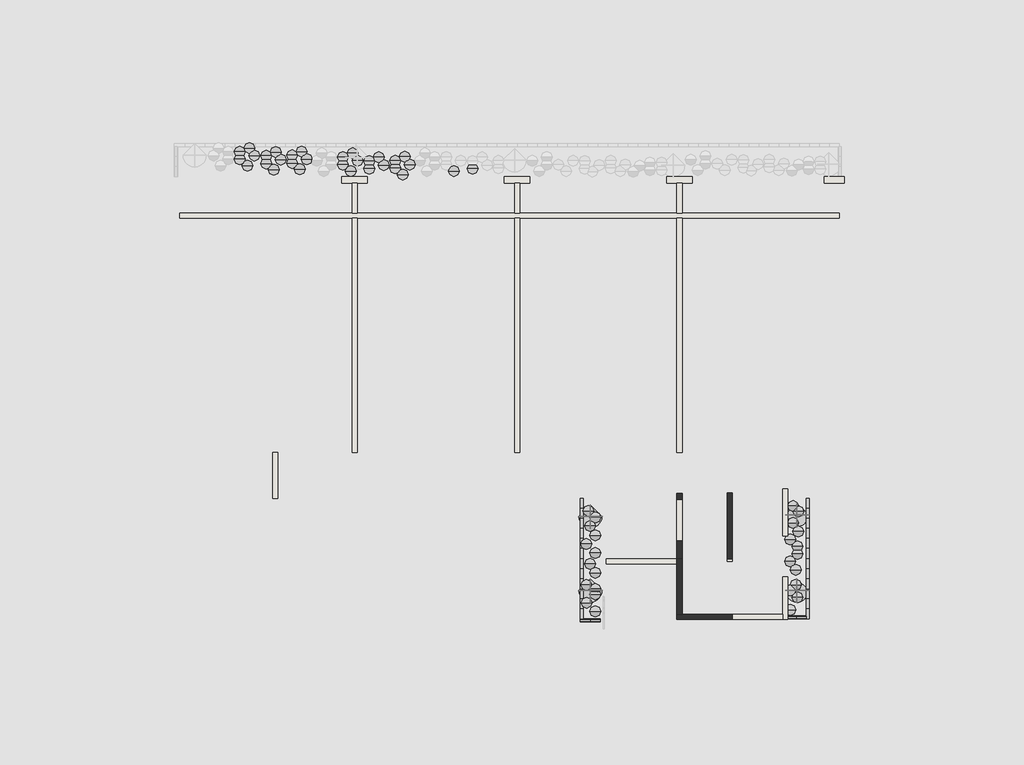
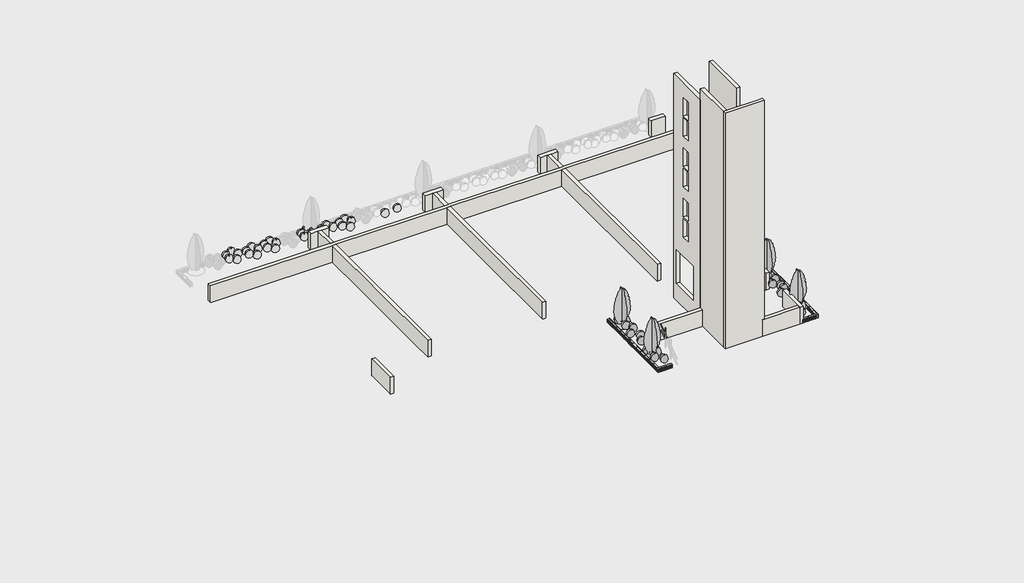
# One storey, part 1 of 2: 57 proxies, 32 geographic elements, 16 walls.
"""IFC4 building model written with IfcOpenShell, lengths in millimetres."""

from ifc_helpers import new_model, si_unit, frame, origin, origin_with_axes, place, context, project, spatial, polyline, outline, extrude, faceted_brep, transform, mapped, element, save
from components import generic_models_fe5f96ef, generic_models_e88440d3, geographic_element_770d22dd, geographic_element_d8609427

model = new_model("IFC4")

# Units and contexts
model_context = context("Model", 3, world=origin())
ifc_project = project(units=[si_unit("LENGTHUNIT", "METRE", prefix="MILLI")], contexts=[model_context])

# Site, building, storey
site = spatial("IfcSite", under=ifc_project)
building = spatial("IfcBuilding", under=site)
storey = spatial("IfcBuildingStorey", under=building, Name="設計GL", Elevation=0.0)

# Proxies
placement = place(None, origin())
generic_models_shape = generic_models_fe5f96ef(model_context)
element("IfcBuildingElementProxy", 1, Name="サツキ50 : サツキ", ObjectType="サツキ50 : サツキ", at=placement, inside=storey, context=model_context, shape_type="MappedRepresentation", body=[
    mapped(generic_models_shape, transform((62124.4249343, -9585.7974693, 0.0), x_axis=(1.0, 0.0, 0.0), y_axis=(0.0, 1.0, 0.0), z_axis=(0.0, 0.0, 1.0))),
])
element("IfcBuildingElementProxy", 2, Name="サツキ53 : サツキ", ObjectType="サツキ53 : サツキ", at=placement, inside=storey, context=model_context, shape_type="MappedRepresentation", body=[
    mapped(generic_models_shape, transform((62391.7574812, -9853.1300162, 0.0), x_axis=(1.0, 0.0, 0.0), y_axis=(0.0, 1.0, 0.0), z_axis=(0.0, 0.0, 1.0))),
])
element("IfcBuildingElementProxy", 3, Name="サツキ58 : サツキ", ObjectType="サツキ58 : サツキ", at=placement, inside=storey, context=model_context, shape_type="MappedRepresentation", body=[
    mapped(generic_models_shape, transform((62191.7574812, -10199.5401777, 0.0), x_axis=(1.0, 0.0, 0.0), y_axis=(0.0, 1.0, 0.0), z_axis=(0.0, 0.0, 1.0))),
])
element("IfcBuildingElementProxy", 4, Name="サツキ59 : サツキ", ObjectType="サツキ59 : サツキ", at=placement, inside=storey, context=model_context, shape_type="MappedRepresentation", body=[
    mapped(generic_models_shape, transform((62391.7574812, -10561.2926613, 0.0), x_axis=(1.0, 0.0, 0.0), y_axis=(0.0, 1.0, 0.0), z_axis=(0.0, 0.0, 1.0))),
])
element("IfcBuildingElementProxy", 5, Name="サツキ60 : サツキ", ObjectType="サツキ60 : サツキ", at=placement, inside=storey, context=model_context, shape_type="MappedRepresentation", body=[
    mapped(generic_models_shape, transform((62038.2040906, -10914.8460519, 0.0), x_axis=(1.0, 0.0, 0.0), y_axis=(0.0, 1.0, 0.0), z_axis=(0.0, 0.0, 1.0))),
])
element("IfcBuildingElementProxy", 6, Name="サツキ65 : サツキ", ObjectType="サツキ65 : サツキ", at=placement, inside=storey, context=model_context, shape_type="MappedRepresentation", body=[
    mapped(generic_models_shape, transform((62391.7574812, -11268.3994425, 0.0), x_axis=(1.0, 0.0, 0.0), y_axis=(0.0, 1.0, 0.0), z_axis=(0.0, 0.0, 1.0))),
])
element("IfcBuildingElementProxy", 7, Name="サツキ66 : サツキ", ObjectType="サツキ66 : サツキ", at=placement, inside=storey, context=model_context, shape_type="MappedRepresentation", body=[
    mapped(generic_models_shape, transform((62189.8960581, -11701.2926613, 0.0), x_axis=(1.0, 0.0, 0.0), y_axis=(0.0, 1.0, 0.0), z_axis=(0.0, 0.0, 1.0))),
])
element("IfcBuildingElementProxy", 8, Name="サツキ70 : サツキ", ObjectType="サツキ70 : サツキ", at=placement, inside=storey, context=model_context, shape_type="MappedRepresentation", body=[
    mapped(generic_models_shape, transform((62391.7574812, -12050.9269022, 0.0), x_axis=(1.0, 0.0, 0.0), y_axis=(0.0, 1.0, 0.0), z_axis=(0.0, 0.0, 1.0))),
])
element("IfcBuildingElementProxy", 9, Name="サツキ75 : サツキ", ObjectType="サツキ75 : サツキ", at=placement, inside=storey, context=model_context, shape_type="MappedRepresentation", body=[
    mapped(generic_models_shape, transform((62047.6116194, -12542.4181288, 0.0), x_axis=(1.0, 0.0, 0.0), y_axis=(0.0, 1.0, 0.0), z_axis=(0.0, 0.0, 1.0))),
])
element("IfcBuildingElementProxy", 10, Name="サツキ78 : サツキ", ObjectType="サツキ78 : サツキ", at=placement, inside=storey, context=model_context, shape_type="MappedRepresentation", body=[
    mapped(generic_models_shape, transform((62391.7574812, -12701.2926613, 0.0), x_axis=(1.0, 0.0, 0.0), y_axis=(0.0, 1.0, 0.0), z_axis=(0.0, 0.0, 1.0))),
])
element("IfcBuildingElementProxy", 11, Name="サツキ83 : サツキ", ObjectType="サツキ83 : サツキ", at=placement, inside=storey, context=model_context, shape_type="MappedRepresentation", body=[
    mapped(generic_models_shape, transform((62391.7574812, -12901.2926613, 0.0), x_axis=(1.0, 0.0, 0.0), y_axis=(0.0, 1.0, 0.0), z_axis=(0.0, 0.0, 1.0))),
])
element("IfcBuildingElementProxy", 12, Name="サツキ88 : サツキ", ObjectType="サツキ88 : サツキ", at=placement, inside=storey, context=model_context, shape_type="MappedRepresentation", body=[
    mapped(generic_models_shape, transform((62051.7574812, -13241.2926613, 0.0), x_axis=(1.0, 0.0, 0.0), y_axis=(0.0, 1.0, 0.0), z_axis=(0.0, 0.0, 1.0))),
])
element("IfcBuildingElementProxy", 13, Name="サツキ89 : サツキ", ObjectType="サツキ89 : サツキ", at=placement, inside=storey, context=model_context, shape_type="MappedRepresentation", body=[
    mapped(generic_models_shape, transform((62391.7574812, -13581.2926613, 0.0), x_axis=(1.0, 0.0, 0.0), y_axis=(0.0, 1.0, 0.0), z_axis=(0.0, 0.0, 1.0))),
])
element("IfcBuildingElementProxy", 14, Name="サツキ90 : サツキ", ObjectType="サツキ90 : サツキ", at=placement, inside=storey, context=model_context, shape_type="MappedRepresentation", body=[
    mapped(generic_models_shape, transform((70249.9910577, -9402.9957525, 0.0), x_axis=(1.0, 0.0, 0.0), y_axis=(0.0, 1.0, 0.0), z_axis=(0.0, 0.0, 1.0))),
])
element("IfcBuildingElementProxy", 15, Name="サツキ91 : サツキ", ObjectType="サツキ91 : サツキ", at=placement, inside=storey, context=model_context, shape_type="MappedRepresentation", body=[
    mapped(generic_models_shape, transform((70462.123092, -9615.1277869, 0.0), x_axis=(1.0, 0.0, 0.0), y_axis=(0.0, 1.0, 0.0), z_axis=(0.0, 0.0, 1.0))),
])
element("IfcBuildingElementProxy", 16, Name="サツキ92 : サツキ", ObjectType="サツキ92 : サツキ", at=placement, inside=storey, context=model_context, shape_type="MappedRepresentation", body=[
    mapped(generic_models_shape, transform((70250.8139611, -10068.2816804, 0.0), x_axis=(1.0, 0.0, 0.0), y_axis=(0.0, 1.0, 0.0), z_axis=(0.0, 0.0, 1.0))),
])
element("IfcBuildingElementProxy", 17, Name="サツキ93 : サツキ", ObjectType="サツキ93 : サツキ", at=placement, inside=storey, context=model_context, shape_type="MappedRepresentation", body=[
    mapped(generic_models_shape, transform((70450.8139611, -10414.6918419, 0.0), x_axis=(1.0, 0.0, 0.0), y_axis=(0.0, 1.0, 0.0), z_axis=(0.0, 0.0, 1.0))),
])
element("IfcBuildingElementProxy", 18, Name="サツキ94 : サツキ", ObjectType="サツキ94 : サツキ", at=placement, inside=storey, context=model_context, shape_type="MappedRepresentation", body=[
    mapped(generic_models_shape, transform((70141.7574812, -10723.7483219, 0.0), x_axis=(1.0, 0.0, 0.0), y_axis=(0.0, 1.0, 0.0), z_axis=(0.0, 0.0, 1.0))),
])
element("IfcBuildingElementProxy", 19, Name="サツキ95 : サツキ", ObjectType="サツキ95 : サツキ", at=placement, inside=storey, context=model_context, shape_type="MappedRepresentation", body=[
    mapped(generic_models_shape, transform((70424.6001937, -11006.5910343, 0.0), x_axis=(1.0, 0.0, 0.0), y_axis=(0.0, 1.0, 0.0), z_axis=(0.0, 0.0, 1.0))),
])
element("IfcBuildingElementProxy", 20, Name="サツキ96 : サツキ", ObjectType="サツキ96 : サツキ", at=placement, inside=storey, context=model_context, shape_type="MappedRepresentation", body=[
    mapped(generic_models_shape, transform((70424.6001937, -11306.5910343, 0.0), x_axis=(1.0, 0.0, 0.0), y_axis=(0.0, 1.0, 0.0), z_axis=(0.0, 0.0, 1.0))),
])
element("IfcBuildingElementProxy", 21, Name="サツキ97 : サツキ", ObjectType="サツキ97 : サツキ", at=placement, inside=storey, context=model_context, shape_type="MappedRepresentation", body=[
    mapped(generic_models_shape, transform((70129.8985667, -11601.2926613, 0.0), x_axis=(1.0, 0.0, 0.0), y_axis=(0.0, 1.0, 0.0), z_axis=(0.0, 0.0, 1.0))),
])
element("IfcBuildingElementProxy", 22, Name="サツキ98 : サツキ", ObjectType="サツキ98 : サツキ", at=placement, inside=storey, context=model_context, shape_type="MappedRepresentation", body=[
    mapped(generic_models_shape, transform((70361.3171581, -11931.7926613, 0.0), x_axis=(1.0, 0.0, 0.0), y_axis=(0.0, 1.0, 0.0), z_axis=(0.0, 0.0, 1.0))),
])
element("IfcBuildingElementProxy", 23, Name="サツキ99 : サツキ", ObjectType="サツキ99 : サツキ", at=placement, inside=storey, context=model_context, shape_type="MappedRepresentation", body=[
    mapped(generic_models_shape, transform((70361.3171581, -12531.7926613, 0.0), x_axis=(1.0, 0.0, 0.0), y_axis=(0.0, 1.0, 0.0), z_axis=(0.0, 0.0, 1.0))),
])
element("IfcBuildingElementProxy", 24, Name="サツキ100 : サツキ", ObjectType="サツキ100 : サツキ", at=placement, inside=storey, context=model_context, shape_type="MappedRepresentation", body=[
    mapped(generic_models_shape, transform((70141.8171581, -12751.2926613, 0.0), x_axis=(1.0, 0.0, 0.0), y_axis=(0.0, 1.0, 0.0), z_axis=(0.0, 0.0, 1.0))),
])
element("IfcBuildingElementProxy", 25, Name="サツキ101 : サツキ", ObjectType="サツキ101 : サツキ", at=placement, inside=storey, context=model_context, shape_type="MappedRepresentation", body=[
    mapped(generic_models_shape, transform((70424.6598705, -13034.1353738, 0.0), x_axis=(1.0, 0.0, 0.0), y_axis=(0.0, 1.0, 0.0), z_axis=(0.0, 0.0, 1.0))),
])
element("IfcBuildingElementProxy", 26, Name="サツキ102 : サツキ", ObjectType="サツキ102 : サツキ", at=placement, inside=storey, context=model_context, shape_type="MappedRepresentation", body=[
    mapped(generic_models_shape, transform((70141.7574812, -13524.1366857, 0.0), x_axis=(1.0, 0.0, 0.0), y_axis=(0.0, 1.0, 0.0), z_axis=(0.0, 0.0, 1.0))),
])
generic_models_2_shape = generic_models_e88440d3(model_context)
element("IfcBuildingElementProxy", 27, Name="サツキ6 : サツキ", ObjectType="サツキ6 : サツキ", at=placement, inside=storey, context=model_context, shape_type="MappedRepresentation", body=[
    mapped(generic_models_2_shape, transform((-47822.0281243, 4670.5037571, 0.0), x_axis=(1.0, 0.0, 0.0), y_axis=(0.0, 1.0, 0.0), z_axis=(0.0, 0.0, 1.0))),
])
element("IfcBuildingElementProxy", 28, Name="サツキ7 : サツキ", ObjectType="サツキ7 : サツキ", at=placement, inside=storey, context=model_context, shape_type="MappedRepresentation", body=[
    mapped(generic_models_2_shape, transform((-47822.0281243, 4370.5037571, 0.0), x_axis=(1.0, 0.0, 0.0), y_axis=(0.0, 1.0, 0.0), z_axis=(0.0, 0.0, 1.0))),
])
element("IfcBuildingElementProxy", 29, Name="サツキ8 : サツキ", ObjectType="サツキ8 : サツキ", at=placement, inside=storey, context=model_context, shape_type="MappedRepresentation", body=[
    mapped(generic_models_2_shape, transform((-47517.7640556, 4126.2396884, 0.0), x_axis=(1.0, 0.0, 0.0), y_axis=(0.0, 1.0, 0.0), z_axis=(0.0, 0.0, 1.0))),
])
element("IfcBuildingElementProxy", 30, Name="サツキ9 : サツキ", ObjectType="サツキ9 : サツキ", at=placement, inside=storey, context=model_context, shape_type="MappedRepresentation", body=[
    mapped(generic_models_2_shape, transform((-47242.4726285, 4525.7951842, 0.0), x_axis=(1.0, 0.0, 0.0), y_axis=(0.0, 1.0, 0.0), z_axis=(0.0, 0.0, 1.0))),
])
element("IfcBuildingElementProxy", 31, Name="サツキ10 : サツキ", ObjectType="サツキ10 : サツキ", at=placement, inside=storey, context=model_context, shape_type="MappedRepresentation", body=[
    mapped(generic_models_2_shape, transform((-47442.4726285, 4825.7951842, 0.0), x_axis=(1.0, 0.0, 0.0), y_axis=(0.0, 1.0, 0.0), z_axis=(0.0, 0.0, 1.0))),
])
element("IfcBuildingElementProxy", 32, Name="サツキ11 : サツキ", ObjectType="サツキ11 : サツキ", at=placement, inside=storey, context=model_context, shape_type="MappedRepresentation", body=[
    mapped(generic_models_2_shape, transform((-46777.5083567, 4510.6255289, 0.0), x_axis=(1.0, 0.0, 0.0), y_axis=(0.0, 1.0, 0.0), z_axis=(0.0, 0.0, 1.0))),
])
element("IfcBuildingElementProxy", 33, Name="サツキ12 : サツキ", ObjectType="サツキ12 : サツキ", at=placement, inside=storey, context=model_context, shape_type="MappedRepresentation", body=[
    mapped(generic_models_2_shape, transform((-46777.5083567, 4210.6255289, 0.0), x_axis=(1.0, 0.0, 0.0), y_axis=(0.0, 1.0, 0.0), z_axis=(0.0, 0.0, 1.0))),
])
element("IfcBuildingElementProxy", 34, Name="サツキ13 : サツキ", ObjectType="サツキ13 : サツキ", at=placement, inside=storey, context=model_context, shape_type="MappedRepresentation", body=[
    mapped(generic_models_2_shape, transform((-46473.244288, 3966.3614602, 0.0), x_axis=(1.0, 0.0, 0.0), y_axis=(0.0, 1.0, 0.0), z_axis=(0.0, 0.0, 1.0))),
])
element("IfcBuildingElementProxy", 35, Name="サツキ14 : サツキ", ObjectType="サツキ14 : サツキ", at=placement, inside=storey, context=model_context, shape_type="MappedRepresentation", body=[
    mapped(generic_models_2_shape, transform((-46197.9528609, 4365.916956, 0.0), x_axis=(1.0, 0.0, 0.0), y_axis=(0.0, 1.0, 0.0), z_axis=(0.0, 0.0, 1.0))),
])
element("IfcBuildingElementProxy", 36, Name="サツキ15 : サツキ", ObjectType="サツキ15 : サツキ", at=placement, inside=storey, context=model_context, shape_type="MappedRepresentation", body=[
    mapped(generic_models_2_shape, transform((-46397.9528609, 4665.916956, 0.0), x_axis=(1.0, 0.0, 0.0), y_axis=(0.0, 1.0, 0.0), z_axis=(0.0, 0.0, 1.0))),
])
element("IfcBuildingElementProxy", 37, Name="サツキ16 : サツキ", ObjectType="サツキ16 : サツキ", at=placement, inside=storey, context=model_context, shape_type="MappedRepresentation", body=[
    mapped(generic_models_2_shape, transform((-45749.6621543, 4529.5440711, 0.0), x_axis=(1.0, 0.0, 0.0), y_axis=(0.0, 1.0, 0.0), z_axis=(0.0, 0.0, 1.0))),
])
element("IfcBuildingElementProxy", 38, Name="サツキ17 : サツキ", ObjectType="サツキ17 : サツキ", at=placement, inside=storey, context=model_context, shape_type="MappedRepresentation", body=[
    mapped(generic_models_2_shape, transform((-45749.6621543, 4229.5440711, 0.0), x_axis=(1.0, 0.0, 0.0), y_axis=(0.0, 1.0, 0.0), z_axis=(0.0, 0.0, 1.0))),
])
element("IfcBuildingElementProxy", 39, Name="サツキ18 : サツキ", ObjectType="サツキ18 : サツキ", at=placement, inside=storey, context=model_context, shape_type="MappedRepresentation", body=[
    mapped(generic_models_2_shape, transform((-45445.3980856, 3985.2800023, 0.0), x_axis=(1.0, 0.0, 0.0), y_axis=(0.0, 1.0, 0.0), z_axis=(0.0, 0.0, 1.0))),
])
element("IfcBuildingElementProxy", 40, Name="サツキ19 : サツキ", ObjectType="サツキ19 : サツキ", at=placement, inside=storey, context=model_context, shape_type="MappedRepresentation", body=[
    mapped(generic_models_2_shape, transform((-45170.1066585, 4384.8354981, 0.0), x_axis=(1.0, 0.0, 0.0), y_axis=(0.0, 1.0, 0.0), z_axis=(0.0, 0.0, 1.0))),
])
element("IfcBuildingElementProxy", 41, Name="サツキ20 : サツキ", ObjectType="サツキ20 : サツキ", at=placement, inside=storey, context=model_context, shape_type="MappedRepresentation", body=[
    mapped(generic_models_2_shape, transform((-45370.1066585, 4684.8354981, 0.0), x_axis=(1.0, 0.0, 0.0), y_axis=(0.0, 1.0, 0.0), z_axis=(0.0, 0.0, 1.0))),
])
element("IfcBuildingElementProxy", 42, Name="サツキ26 : サツキ", ObjectType="サツキ26 : サツキ", at=placement, inside=storey, context=model_context, shape_type="MappedRepresentation", body=[
    mapped(generic_models_2_shape, transform((-43727.6470318, 4455.9263365, 0.0), x_axis=(1.0, 0.0, 0.0), y_axis=(0.0, 1.0, 0.0), z_axis=(0.0, 0.0, 1.0))),
])
element("IfcBuildingElementProxy", 43, Name="サツキ27 : サツキ", ObjectType="サツキ27 : サツキ", at=placement, inside=storey, context=model_context, shape_type="MappedRepresentation", body=[
    mapped(generic_models_2_shape, transform((-43727.6470318, 4155.9263365, 0.0), x_axis=(1.0, 0.0, 0.0), y_axis=(0.0, 1.0, 0.0), z_axis=(0.0, 0.0, 1.0))),
])
element("IfcBuildingElementProxy", 44, Name="サツキ28 : サツキ", ObjectType="サツキ28 : サツキ", at=placement, inside=storey, context=model_context, shape_type="MappedRepresentation", body=[
    mapped(generic_models_2_shape, transform((-43423.3829631, 3911.6622678, 0.0), x_axis=(1.0, 0.0, 0.0), y_axis=(0.0, 1.0, 0.0), z_axis=(0.0, 0.0, 1.0))),
])
element("IfcBuildingElementProxy", 45, Name="サツキ29 : サツキ", ObjectType="サツキ29 : サツキ", at=placement, inside=storey, context=model_context, shape_type="MappedRepresentation", body=[
    mapped(generic_models_2_shape, transform((-43148.091536, 4311.2177636, 0.0), x_axis=(1.0, 0.0, 0.0), y_axis=(0.0, 1.0, 0.0), z_axis=(0.0, 0.0, 1.0))),
])
element("IfcBuildingElementProxy", 46, Name="サツキ30 : サツキ", ObjectType="サツキ30 : サツキ", at=placement, inside=storey, context=model_context, shape_type="MappedRepresentation", body=[
    mapped(generic_models_2_shape, transform((-43348.091536, 4611.2177636, 0.0), x_axis=(1.0, 0.0, 0.0), y_axis=(0.0, 1.0, 0.0), z_axis=(0.0, 0.0, 1.0))),
])
element("IfcBuildingElementProxy", 47, Name="サツキ31 : サツキ", ObjectType="サツキ31 : サツキ", at=placement, inside=storey, context=model_context, shape_type="MappedRepresentation", body=[
    mapped(generic_models_2_shape, transform((-42683.1272642, 4296.0481083, 0.0), x_axis=(1.0, 0.0, 0.0), y_axis=(0.0, 1.0, 0.0), z_axis=(0.0, 0.0, 1.0))),
])
element("IfcBuildingElementProxy", 48, Name="サツキ32 : サツキ", ObjectType="サツキ32 : サツキ", at=placement, inside=storey, context=model_context, shape_type="MappedRepresentation", body=[
    mapped(generic_models_2_shape, transform((-42683.1272642, 3996.0481083, 0.0), x_axis=(1.0, 0.0, 0.0), y_axis=(0.0, 1.0, 0.0), z_axis=(0.0, 0.0, 1.0))),
])
element("IfcBuildingElementProxy", 49, Name="サツキ34 : サツキ", ObjectType="サツキ34 : サツキ", at=placement, inside=storey, context=model_context, shape_type="MappedRepresentation", body=[
    mapped(generic_models_2_shape, transform((-42103.5717685, 4151.3395354, 0.0), x_axis=(1.0, 0.0, 0.0), y_axis=(0.0, 1.0, 0.0), z_axis=(0.0, 0.0, 1.0))),
])
element("IfcBuildingElementProxy", 50, Name="サツキ35 : サツキ", ObjectType="サツキ35 : サツキ", at=placement, inside=storey, context=model_context, shape_type="MappedRepresentation", body=[
    mapped(generic_models_2_shape, transform((-42303.5717685, 4451.3395354, 0.0), x_axis=(1.0, 0.0, 0.0), y_axis=(0.0, 1.0, 0.0), z_axis=(0.0, 0.0, 1.0))),
])
element("IfcBuildingElementProxy", 51, Name="サツキ36 : サツキ", ObjectType="サツキ36 : サツキ", at=placement, inside=storey, context=model_context, shape_type="MappedRepresentation", body=[
    mapped(generic_models_2_shape, transform((-41655.2810618, 4314.9666505, 0.0), x_axis=(1.0, 0.0, 0.0), y_axis=(0.0, 1.0, 0.0), z_axis=(0.0, 0.0, 1.0))),
])
element("IfcBuildingElementProxy", 52, Name="サツキ37 : サツキ", ObjectType="サツキ37 : サツキ", at=placement, inside=storey, context=model_context, shape_type="MappedRepresentation", body=[
    mapped(generic_models_2_shape, transform((-41655.2810618, 4014.9666505, 0.0), x_axis=(1.0, 0.0, 0.0), y_axis=(0.0, 1.0, 0.0), z_axis=(0.0, 0.0, 1.0))),
])
element("IfcBuildingElementProxy", 53, Name="サツキ38 : サツキ", ObjectType="サツキ38 : サツキ", at=placement, inside=storey, context=model_context, shape_type="MappedRepresentation", body=[
    mapped(generic_models_2_shape, transform((-41351.0169931, 3770.7025818, 0.0), x_axis=(1.0, 0.0, 0.0), y_axis=(0.0, 1.0, 0.0), z_axis=(0.0, 0.0, 1.0))),
])
element("IfcBuildingElementProxy", 54, Name="サツキ39 : サツキ", ObjectType="サツキ39 : サツキ", at=placement, inside=storey, context=model_context, shape_type="MappedRepresentation", body=[
    mapped(generic_models_2_shape, transform((-41075.725566, 4170.2580775, 0.0), x_axis=(1.0, 0.0, 0.0), y_axis=(0.0, 1.0, 0.0), z_axis=(0.0, 0.0, 1.0))),
])
element("IfcBuildingElementProxy", 55, Name="サツキ40 : サツキ", ObjectType="サツキ40 : サツキ", at=placement, inside=storey, context=model_context, shape_type="MappedRepresentation", body=[
    mapped(generic_models_2_shape, transform((-41275.725566, 4470.2580775, 0.0), x_axis=(1.0, 0.0, 0.0), y_axis=(0.0, 1.0, 0.0), z_axis=(0.0, 0.0, 1.0))),
])
element("IfcBuildingElementProxy", 56, Name="サツキ48 : サツキ", ObjectType="サツキ48 : サツキ", at=placement, inside=storey, context=model_context, shape_type="MappedRepresentation", body=[
    mapped(generic_models_2_shape, transform((-39323.3829631, 3911.6622678, 0.0), x_axis=(1.0, 0.0, 0.0), y_axis=(0.0, 1.0, 0.0), z_axis=(0.0, 0.0, 1.0))),
])
element("IfcBuildingElementProxy", 57, Name="サツキ52 : サツキ", ObjectType="サツキ52 : サツキ", at=placement, inside=storey, context=model_context, shape_type="MappedRepresentation", body=[
    mapped(generic_models_2_shape, transform((-38583.1272642, 3996.0481083, 0.0), x_axis=(1.0, 0.0, 0.0), y_axis=(0.0, 1.0, 0.0), z_axis=(0.0, 0.0, 1.0))),
])

# Geographic elements
geographic_element_shape = geographic_element_770d22dd(model_context)
element("IfcGeographicElement", 58, ObjectType="木 - 針葉樹 : イブキ - 2.14 メートル", at=placement, inside=storey, context=model_context, shape_type="MappedRepresentation", body=[
    mapped(geographic_element_shape, transform((5817.5114182, -3176.0121989, 200.0), x_axis=(1.0, 0.0, 0.0), y_axis=(0.0, 1.0, 0.0), z_axis=(0.0, 0.0, 1.0))),
])
element("IfcGeographicElement", 59, ObjectType="木 - 針葉樹 : イブキ - 2.14 メートル", at=placement, inside=storey, context=model_context, shape_type="MappedRepresentation", body=[
    mapped(geographic_element_shape, transform((5817.5114182, -6119.7401342, 200.0), x_axis=(1.0, 0.0, 0.0), y_axis=(0.0, 1.0, 0.0), z_axis=(0.0, 0.0, 1.0))),
])
element("IfcGeographicElement", 60, ObjectType="木 - 針葉樹 : イブキ - 2.14 メートル", at=placement, inside=storey, context=model_context, shape_type="MappedRepresentation", body=[
    mapped(geographic_element_shape, transform((14017.5114182, -6119.7401342, 200.0), x_axis=(1.0, 0.0, 0.0), y_axis=(0.0, 1.0, 0.0), z_axis=(0.0, 0.0, 1.0))),
])
element("IfcGeographicElement", 61, ObjectType="木 - 針葉樹 : イブキ - 2.14 メートル", at=placement, inside=storey, context=model_context, shape_type="MappedRepresentation", body=[
    mapped(geographic_element_shape, transform((14017.5114182, -3119.7401342, 200.0), x_axis=(1.0, 0.0, 0.0), y_axis=(0.0, 1.0, 0.0), z_axis=(0.0, 0.0, 1.0))),
])
geographic_element_2_shape = geographic_element_d8609427(model_context)
element("IfcGeographicElement", 62, ObjectType="化粧ＣＢ5Ｌ : 化粧ＣＢ5Ｌ", at=placement, inside=storey, context=model_context, shape_type="MappedRepresentation", body=[
    mapped(geographic_element_2_shape, transform((5409.8747234, -3659.7401342, 0.0), x_axis=(0.0, 1.0, 0.0), y_axis=(-1.0, 0.0, 0.0), z_axis=(0.0, 0.0, 1.0))),
])
element("IfcGeographicElement", 63, ObjectType="化粧ＣＢ5Ｌ : 化粧ＣＢ5Ｌ", at=placement, inside=storey, context=model_context, shape_type="MappedRepresentation", body=[
    mapped(geographic_element_2_shape, transform((5409.8747234, -3259.7401342, 0.0), x_axis=(0.0, 1.0, 0.0), y_axis=(-1.0, 0.0, 0.0), z_axis=(0.0, 0.0, 1.0))),
])
element("IfcGeographicElement", 64, ObjectType="化粧ＣＢ5Ｌ : 化粧ＣＢ5Ｌ", at=placement, inside=storey, context=model_context, shape_type="MappedRepresentation", body=[
    mapped(geographic_element_2_shape, transform((5409.8747234, -2859.7401342, 0.0), x_axis=(0.0, 1.0, 0.0), y_axis=(-1.0, 0.0, 0.0), z_axis=(0.0, 0.0, 1.0))),
])
element("IfcGeographicElement", 65, ObjectType="化粧ＣＢ5Ｌ : 化粧ＣＢ5Ｌ", at=placement, inside=storey, context=model_context, shape_type="MappedRepresentation", body=[
    mapped(geographic_element_2_shape, transform((5409.8747234, -4859.7401342, 0.0), x_axis=(0.0, 1.0, 0.0), y_axis=(-1.0, 0.0, 0.0), z_axis=(0.0, 0.0, 1.0))),
])
element("IfcGeographicElement", 66, ObjectType="化粧ＣＢ5Ｌ : 化粧ＣＢ5Ｌ", at=placement, inside=storey, context=model_context, shape_type="MappedRepresentation", body=[
    mapped(geographic_element_2_shape, transform((5409.8747234, -4459.7401342, 0.0), x_axis=(0.0, 1.0, 0.0), y_axis=(-1.0, 0.0, 0.0), z_axis=(0.0, 0.0, 1.0))),
])
element("IfcGeographicElement", 67, ObjectType="化粧ＣＢ5Ｌ : 化粧ＣＢ5Ｌ", at=placement, inside=storey, context=model_context, shape_type="MappedRepresentation", body=[
    mapped(geographic_element_2_shape, transform((5409.8747234, -4059.7401342, 0.0), x_axis=(0.0, 1.0, 0.0), y_axis=(-1.0, 0.0, 0.0), z_axis=(0.0, 0.0, 1.0))),
])
element("IfcGeographicElement", 68, ObjectType="化粧ＣＢ5Ｌ : 化粧ＣＢ5Ｌ", at=placement, inside=storey, context=model_context, shape_type="MappedRepresentation", body=[
    mapped(geographic_element_2_shape, transform((5409.8747234, -6059.7401342, 0.0), x_axis=(0.0, 1.0, 0.0), y_axis=(-1.0, 0.0, 0.0), z_axis=(0.0, 0.0, 1.0))),
])
element("IfcGeographicElement", 69, ObjectType="化粧ＣＢ5Ｌ : 化粧ＣＢ5Ｌ", at=placement, inside=storey, context=model_context, shape_type="MappedRepresentation", body=[
    mapped(geographic_element_2_shape, transform((5409.8747234, -5659.7401342, 0.0), x_axis=(0.0, 1.0, 0.0), y_axis=(-1.0, 0.0, 0.0), z_axis=(0.0, 0.0, 1.0))),
])
element("IfcGeographicElement", 70, ObjectType="化粧ＣＢ5Ｌ : 化粧ＣＢ5Ｌ", at=placement, inside=storey, context=model_context, shape_type="MappedRepresentation", body=[
    mapped(geographic_element_2_shape, transform((5409.8747234, -5259.7401342, 0.0), x_axis=(0.0, 1.0, 0.0), y_axis=(-1.0, 0.0, 0.0), z_axis=(0.0, 0.0, 1.0))),
])
element("IfcGeographicElement", 71, ObjectType="化粧ＣＢ5Ｌ : 化粧ＣＢ5Ｌ", at=placement, inside=storey, context=model_context, shape_type="MappedRepresentation", body=[
    mapped(geographic_element_2_shape, transform((5409.8747234, -7259.7401342, 0.0), x_axis=(0.0, 1.0, 0.0), y_axis=(-1.0, 0.0, 0.0), z_axis=(0.0, 0.0, 1.0))),
])
element("IfcGeographicElement", 72, ObjectType="化粧ＣＢ5Ｌ : 化粧ＣＢ5Ｌ", at=placement, inside=storey, context=model_context, shape_type="MappedRepresentation", body=[
    mapped(geographic_element_2_shape, transform((5409.8747234, -6859.7401342, 0.0), x_axis=(0.0, 1.0, 0.0), y_axis=(-1.0, 0.0, 0.0), z_axis=(0.0, 0.0, 1.0))),
])
element("IfcGeographicElement", 73, ObjectType="化粧ＣＢ5Ｌ : 化粧ＣＢ5Ｌ", at=placement, inside=storey, context=model_context, shape_type="MappedRepresentation", body=[
    mapped(geographic_element_2_shape, transform((5409.8747234, -6459.7401342, 0.0), x_axis=(0.0, 1.0, 0.0), y_axis=(-1.0, 0.0, 0.0), z_axis=(0.0, 0.0, 1.0))),
])
element("IfcGeographicElement", 74, ObjectType="化粧ＣＢ5Ｌ : 化粧ＣＢ5Ｌ", at=placement, inside=storey, context=model_context, shape_type="MappedRepresentation", body=[
    mapped(geographic_element_2_shape, transform((5414.8747234, -7259.7401342, 0.0), x_axis=(1.0, 0.0, 0.0), y_axis=(0.0, 1.0, 0.0), z_axis=(0.0, 0.0, 1.0))),
])
element("IfcGeographicElement", 75, ObjectType="化粧ＣＢ5Ｌ : 化粧ＣＢ5Ｌ", at=placement, inside=storey, context=model_context, shape_type="MappedRepresentation", body=[
    mapped(geographic_element_2_shape, transform((5814.8747234, -7259.7401342, 0.0), x_axis=(1.0, 0.0, 0.0), y_axis=(0.0, 1.0, 0.0), z_axis=(0.0, 0.0, 1.0))),
])
element("IfcGeographicElement", 76, ObjectType="化粧ＣＢ5Ｌ : 化粧ＣＢ5Ｌ", at=placement, inside=storey, context=model_context, shape_type="MappedRepresentation", body=[
    mapped(geographic_element_2_shape, transform((14389.8747234, -3659.7401342, 0.0), x_axis=(0.0, 1.0, 0.0), y_axis=(-1.0, 0.0, 0.0), z_axis=(0.0, 0.0, 1.0))),
])
element("IfcGeographicElement", 77, ObjectType="化粧ＣＢ5Ｌ : 化粧ＣＢ5Ｌ", at=placement, inside=storey, context=model_context, shape_type="MappedRepresentation", body=[
    mapped(geographic_element_2_shape, transform((14389.8747234, -3259.7401342, 0.0), x_axis=(0.0, 1.0, 0.0), y_axis=(-1.0, 0.0, 0.0), z_axis=(0.0, 0.0, 1.0))),
])
element("IfcGeographicElement", 78, ObjectType="化粧ＣＢ5Ｌ : 化粧ＣＢ5Ｌ", at=placement, inside=storey, context=model_context, shape_type="MappedRepresentation", body=[
    mapped(geographic_element_2_shape, transform((14389.8747234, -2859.7401342, 0.0), x_axis=(0.0, 1.0, 0.0), y_axis=(-1.0, 0.0, 0.0), z_axis=(0.0, 0.0, 1.0))),
])
element("IfcGeographicElement", 79, ObjectType="化粧ＣＢ5Ｌ : 化粧ＣＢ5Ｌ", at=placement, inside=storey, context=model_context, shape_type="MappedRepresentation", body=[
    mapped(geographic_element_2_shape, transform((14389.8747234, -4859.7401342, 0.0), x_axis=(0.0, 1.0, 0.0), y_axis=(-1.0, 0.0, 0.0), z_axis=(0.0, 0.0, 1.0))),
])
element("IfcGeographicElement", 80, ObjectType="化粧ＣＢ5Ｌ : 化粧ＣＢ5Ｌ", at=placement, inside=storey, context=model_context, shape_type="MappedRepresentation", body=[
    mapped(geographic_element_2_shape, transform((14389.8747234, -4459.7401342, 0.0), x_axis=(0.0, 1.0, 0.0), y_axis=(-1.0, 0.0, 0.0), z_axis=(0.0, 0.0, 1.0))),
])
element("IfcGeographicElement", 81, ObjectType="化粧ＣＢ5Ｌ : 化粧ＣＢ5Ｌ", at=placement, inside=storey, context=model_context, shape_type="MappedRepresentation", body=[
    mapped(geographic_element_2_shape, transform((14389.8747234, -4059.7401342, 0.0), x_axis=(0.0, 1.0, 0.0), y_axis=(-1.0, 0.0, 0.0), z_axis=(0.0, 0.0, 1.0))),
])
element("IfcGeographicElement", 82, ObjectType="化粧ＣＢ5Ｌ : 化粧ＣＢ5Ｌ", at=placement, inside=storey, context=model_context, shape_type="MappedRepresentation", body=[
    mapped(geographic_element_2_shape, transform((14389.8747234, -6059.7401342, 0.0), x_axis=(0.0, 1.0, 0.0), y_axis=(-1.0, 0.0, 0.0), z_axis=(0.0, 0.0, 1.0))),
])
element("IfcGeographicElement", 83, ObjectType="化粧ＣＢ5Ｌ : 化粧ＣＢ5Ｌ", at=placement, inside=storey, context=model_context, shape_type="MappedRepresentation", body=[
    mapped(geographic_element_2_shape, transform((14389.8747234, -5659.7401342, 0.0), x_axis=(0.0, 1.0, 0.0), y_axis=(-1.0, 0.0, 0.0), z_axis=(0.0, 0.0, 1.0))),
])
element("IfcGeographicElement", 84, ObjectType="化粧ＣＢ5Ｌ : 化粧ＣＢ5Ｌ", at=placement, inside=storey, context=model_context, shape_type="MappedRepresentation", body=[
    mapped(geographic_element_2_shape, transform((14389.8747234, -5259.7401342, 0.0), x_axis=(0.0, 1.0, 0.0), y_axis=(-1.0, 0.0, 0.0), z_axis=(0.0, 0.0, 1.0))),
])
element("IfcGeographicElement", 85, ObjectType="化粧ＣＢ5Ｌ : 化粧ＣＢ5Ｌ", at=placement, inside=storey, context=model_context, shape_type="MappedRepresentation", body=[
    mapped(geographic_element_2_shape, transform((14389.8747234, -7259.7401342, 0.0), x_axis=(0.0, 1.0, 0.0), y_axis=(-1.0, 0.0, 0.0), z_axis=(0.0, 0.0, 1.0))),
])
element("IfcGeographicElement", 86, ObjectType="化粧ＣＢ5Ｌ : 化粧ＣＢ5Ｌ", at=placement, inside=storey, context=model_context, shape_type="MappedRepresentation", body=[
    mapped(geographic_element_2_shape, transform((14389.8747234, -6859.7401342, 0.0), x_axis=(0.0, 1.0, 0.0), y_axis=(-1.0, 0.0, 0.0), z_axis=(0.0, 0.0, 1.0))),
])
element("IfcGeographicElement", 87, ObjectType="化粧ＣＢ5Ｌ : 化粧ＣＢ5Ｌ", at=placement, inside=storey, context=model_context, shape_type="MappedRepresentation", body=[
    mapped(geographic_element_2_shape, transform((14389.8747234, -6459.7401342, 0.0), x_axis=(0.0, 1.0, 0.0), y_axis=(-1.0, 0.0, 0.0), z_axis=(0.0, 0.0, 1.0))),
])
element("IfcGeographicElement", 88, ObjectType="化粧ＣＢ5Ｌ : 化粧ＣＢ5Ｌ", at=placement, inside=storey, context=model_context, shape_type="MappedRepresentation", body=[
    mapped(geographic_element_2_shape, transform((13594.8747234, -7139.7401342, 0.0), x_axis=(1.0, 0.0, 0.0), y_axis=(0.0, 1.0, 0.0), z_axis=(0.0, 0.0, 1.0))),
])
element("IfcGeographicElement", 89, ObjectType="化粧ＣＢ5Ｌ : 化粧ＣＢ5Ｌ", at=placement, inside=storey, context=model_context, shape_type="MappedRepresentation", body=[
    mapped(geographic_element_2_shape, transform((13994.8747234, -7139.7401342, 0.0), x_axis=(1.0, 0.0, 0.0), y_axis=(0.0, 1.0, 0.0), z_axis=(0.0, 0.0, 1.0))),
])

# Walls
element("IfcWall", 90, ObjectType="(R)200", at=placement, inside=storey, context=model_context, shape_type="Brep", body=[
    faceted_brep([(15704.3805905, 8860.2598658, -1200.0), (-10495.6194095, 8860.2598658, -1200.0), (-10495.6194095, 8860.2598658, 1000.0), (-3645.6194095, 8860.2598658, 1000.0), (-3445.6194095, 8860.2598658, 1000.0), (2804.3805905, 8860.2598658, 1000.0), (3004.3805905, 8860.2598658, 1000.0), (9254.3805905, 8860.2598658, 1000.0), (9454.3805905, 8860.2598658, 1000.0), (15704.3805905, 8860.2598658, 1000.0), (15704.3805905, 8660.2598658, -1200.0), (15704.3805905, 8660.2598658, 1000.0), (9454.3805905, 8660.2598658, 1000.0), (9254.3805905, 8660.2598658, 1000.0), (3004.3805905, 8660.2598658, 1000.0), (2804.3805905, 8660.2598658, 1000.0), (-3445.6194095, 8660.2598658, 1000.0), (-3645.6194095, 8660.2598658, 1000.0), (-10495.6194095, 8660.2598658, 1000.0), (-10495.6194095, 8660.2598658, -1200.0)], [[[0, 1, 2, 3, 4, 5, 6, 7, 8, 9]], [[10, 11, 12, 13, 14, 15, 16, 17, 18, 19]], [[1, 0, 10, 19]], [[9, 8, 7, 6, 5, 4, 3, 2, 18, 17, 16, 15, 14, 13, 12, 11]], [[0, 9, 11, 10]], [[2, 1, 19, 18]]]),
])
element("IfcWall", 91, ObjectType="(R)200", at=placement, inside=storey, context=model_context, shape_type="Brep", body=[
    faceted_brep([(-6595.6194095, -2459.7401342, -800.0), (-6595.6194095, -639.7401342, -800.0), (-6595.6194095, -639.7401342, 1000.0), (-6595.6194095, -2259.7401342, 1000.0), (-6595.6194095, -2459.7401342, 1000.0), (-6795.6194095, -2459.7401342, -800.0), (-6795.6194095, -2459.7401342, 1000.0), (-6795.6194095, -2259.7401342, 1000.0), (-6795.6194095, -639.7401342, 1000.0), (-6795.6194095, -639.7401342, -800.0)], [[[0, 1, 2, 3, 4]], [[5, 6, 7, 8, 9]], [[1, 0, 5, 9]], [[2, 1, 9, 8]], [[4, 3, 2, 8, 7, 6]], [[0, 4, 6, 5]]]),
])
element("IfcWall", 92, ObjectType="(R)200", at=placement, inside=storey, context=model_context, shape_type="SweptSolid", body=[
    extrude(outline(polyline([(-3445.6194095, -639.7401342), (-3645.6194095, -639.7401342), (-3645.6194095, 8660.2598658), (-3445.6194095, 8660.2598658), (-3445.6194095, -639.7401342)])), origin_with_axes(), (0.0, 0.0, 1.0), 1000.0),
    extrude(outline(polyline([(-3645.6194095, 10059.9866207), (-3445.6194095, 10059.9866207), (-3445.6194095, 8860.2598658), (-3645.6194095, 8860.2598658), (-3645.6194095, 10059.9866207)])), origin_with_axes(), (0.0, 0.0, 1.0), 1000.0),
])
element("IfcWall", 93, ObjectType="(R)200", at=placement, inside=storey, context=model_context, shape_type="SweptSolid", body=[
    extrude(outline(polyline([(3004.3805905, -639.7401342), (2804.3805905, -639.7401342), (2804.3805905, 8660.2598658), (3004.3805905, 8660.2598658), (3004.3805905, -639.7401342)])), origin_with_axes(), (0.0, 0.0, 1.0), 1000.0),
    extrude(outline(polyline([(2804.3805905, 10059.9866207), (3004.3805905, 10059.9866207), (3004.3805905, 8860.2598658), (2804.3805905, 8860.2598658), (2804.3805905, 10059.9866207)])), origin_with_axes(), (0.0, 0.0, 1.0), 1000.0),
])
element("IfcWall", 94, ObjectType="(R)200", at=placement, inside=storey, context=model_context, shape_type="SweptSolid", body=[
    extrude(outline(polyline([(9454.3805905, -639.7401342), (9254.3805905, -639.7401342), (9254.3805905, 8660.2598658), (9454.3805905, 8660.2598658), (9454.3805905, -639.7401342)])), origin_with_axes(), (0.0, 0.0, 1.0), 1000.0),
    extrude(outline(polyline([(9254.3805905, 10059.9866207), (9454.3805905, 10059.9866207), (9454.3805905, 8860.2598658), (9254.3805905, 8860.2598658), (9254.3805905, 10059.9866207)])), origin_with_axes(), (0.0, 0.0, 1.0), 1000.0),
])
element("IfcWall", 95, ObjectType="(R)200", at=placement, inside=storey, context=model_context, shape_type="Brep", body=[
    faceted_brep([(9254.3805905, -7269.7401342, -800.0), (11354.3805905, -7269.7401342, -800.0), (11354.3805905, -7269.7401342, 1000.0), (11454.3805905, -7269.7401342, 1000.0), (11454.3805905, -7269.7401342, 3511.7647059), (11454.3805905, -7269.7401342, 5181.7647059), (11454.3805905, -7269.7401342, 6511.7647059), (11454.3805905, -7269.7401342, 8181.7647059), (11454.3805905, -7269.7401342, 9511.7647059), (11454.3805905, -7269.7401342, 11231.7647059), (11454.3805905, -7269.7401342, 11761.7647059), (11454.3805905, -7269.7401342, 14000.0), (9254.3805905, -7269.7401342, 14000.0), (9254.3805905, -7069.7401342, -800.0), (9254.3805905, -7069.7401342, 14000.0), (9454.3805905, -7069.7401342, 14000.0), (11254.3805905, -7069.7401342, 14000.0), (11454.3805905, -7069.7401342, 14000.0), (11454.3805905, -7069.7401342, 11761.7647059), (11454.3805905, -7069.7401342, 11231.7647059), (11454.3805905, -7069.7401342, 9511.7647059), (11454.3805905, -7069.7401342, 8181.7647059), (11454.3805905, -7069.7401342, 6511.7647059), (11454.3805905, -7069.7401342, 5181.7647059), (11454.3805905, -7069.7401342, 3511.7647059), (11454.3805905, -7069.7401342, 1000.0), (11354.3805905, -7069.7401342, 1000.0), (11354.3805905, -7069.7401342, -800.0), (9454.3805905, -7069.7401342, -800.0)], [[[0, 1, 2, 3, 4, 5, 6, 7, 8, 9, 10, 11, 12]], [[13, 14, 15, 16, 17, 18, 19, 20, 21, 22, 23, 24, 25, 26, 27, 28]], [[1, 0, 13, 28, 27]], [[12, 11, 17, 16, 15, 14]], [[0, 12, 14, 13]], [[2, 1, 27, 26]], [[25, 3, 2, 26]], [[3, 25, 24, 23, 22, 21, 20, 19, 18, 17, 11, 10, 9, 8, 7, 6, 5, 4]]]),
])
element("IfcWall", 96, ObjectType="(R)200", at=placement, inside=storey, context=model_context, shape_type="Brep", body=[
    faceted_brep([(9454.3805905, -7069.7401342, -800.0), (9454.3805905, -4969.7401342, -800.0), (9454.3805905, -4969.7401342, 1000.0), (9454.3805905, -4869.7401342, 1000.0), (9454.3805905, -4869.7401342, 13350.0), (9454.3805905, -4869.7401342, 14000.0), (9454.3805905, -5069.7401342, 14000.0), (9454.3805905, -7069.7401342, 14000.0), (9254.3805905, -7069.7401342, -800.0), (9254.3805905, -7069.7401342, 14000.0), (9254.3805905, -4869.7401342, 14000.0), (9254.3805905, -4869.7401342, 13350.0), (9254.3805905, -4869.7401342, 3800.0), (9254.3805905, -4869.7401342, 1000.0), (9254.3805905, -4969.7401342, 1000.0), (9254.3805905, -4969.7401342, -800.0)], [[[0, 1, 2, 3, 4, 5, 6, 7]], [[8, 9, 10, 11, 12, 13, 14, 15]], [[1, 0, 8, 15]], [[7, 6, 5, 10, 9]], [[2, 1, 15, 14]], [[13, 3, 2, 14]], [[3, 13, 12, 11, 10, 5, 4]], [[0, 7, 9, 8]]]),
])
element("IfcWall", 97, ObjectType="(R)200", at=placement, inside=storey, context=model_context, shape_type="SweptSolid", body=[
    extrude(outline(polyline([(6454.3805905, -4869.7401342), (9254.3805905, -4869.7401342), (9254.3805905, -5069.7401342), (6454.3805905, -5069.7401342), (6454.3805905, -4869.7401342)])), origin_with_axes(), (0.0, 0.0, 1.0), 1000.0),
])
element("IfcWall", 98, ObjectType="(R)200", at=placement, inside=storey, context=model_context, shape_type="Brep", body=[
    faceted_brep([(9454.3805905, -4869.7401342, 13350.0), (9454.3805905, -4869.7401342, 1000.0), (9454.3805905, -4869.7401342, 0.0), (9454.3805905, -2259.7401342, 0.0), (9454.3805905, -2259.7401342, 13350.0), (9454.3805905, -2509.7401342, 3020.0), (9454.3805905, -2509.7401342, 1000.0), (9454.3805905, -4149.7401342, 1000.0), (9454.3805905, -4149.7401342, 3020.0), (9454.3805905, -3654.7401342, 11380.0), (9454.3805905, -3654.7401342, 12480.0), (9454.3805905, -3204.7401342, 12480.0), (9454.3805905, -3204.7401342, 11380.0), (9454.3805905, -3654.7401342, 10180.0), (9454.3805905, -3654.7401342, 11280.0), (9454.3805905, -3204.7401342, 11280.0), (9454.3805905, -3204.7401342, 10180.0), (9454.3805905, -3654.7401342, 8380.0), (9454.3805905, -3654.7401342, 9480.0), (9454.3805905, -3204.7401342, 9480.0), (9454.3805905, -3204.7401342, 8380.0), (9454.3805905, -3654.7401342, 7180.0), (9454.3805905, -3654.7401342, 8280.0), (9454.3805905, -3204.7401342, 8280.0), (9454.3805905, -3204.7401342, 7180.0), (9454.3805905, -3654.7401342, 5380.0), (9454.3805905, -3654.7401342, 6480.0), (9454.3805905, -3204.7401342, 6480.0), (9454.3805905, -3204.7401342, 5380.0), (9454.3805905, -3654.7401342, 4180.0), (9454.3805905, -3654.7401342, 5280.0), (9454.3805905, -3204.7401342, 5280.0), (9454.3805905, -3204.7401342, 4180.0), (9254.3805905, -4869.7401342, 0.0), (9254.3805905, -4869.7401342, 1000.0), (9254.3805905, -4869.7401342, 13350.0), (9254.3805905, -2459.7401342, 13350.0), (9254.3805905, -2259.7401342, 13350.0), (9254.3805905, -2259.7401342, 12850.0), (9254.3805905, -2259.7401342, 3650.0), (9254.3805905, -2259.7401342, 0.0), (9254.3805905, -2509.7401342, 3020.0), (9254.3805905, -4149.7401342, 3020.0), (9254.3805905, -4149.7401342, 1000.0), (9254.3805905, -2509.7401342, 1000.0), (9254.3805905, -3654.7401342, 11380.0), (9254.3805905, -3204.7401342, 11380.0), (9254.3805905, -3204.7401342, 12480.0), (9254.3805905, -3654.7401342, 12480.0), (9254.3805905, -3654.7401342, 10180.0), (9254.3805905, -3204.7401342, 10180.0), (9254.3805905, -3204.7401342, 11280.0), (9254.3805905, -3654.7401342, 11280.0), (9254.3805905, -3654.7401342, 8380.0), (9254.3805905, -3204.7401342, 8380.0), (9254.3805905, -3204.7401342, 9480.0), (9254.3805905, -3654.7401342, 9480.0), (9254.3805905, -3654.7401342, 7180.0), (9254.3805905, -3204.7401342, 7180.0), (9254.3805905, -3204.7401342, 8280.0), (9254.3805905, -3654.7401342, 8280.0), (9254.3805905, -3654.7401342, 5380.0), (9254.3805905, -3204.7401342, 5380.0), (9254.3805905, -3204.7401342, 6480.0), (9254.3805905, -3654.7401342, 6480.0), (9254.3805905, -3654.7401342, 4180.0), (9254.3805905, -3204.7401342, 4180.0), (9254.3805905, -3204.7401342, 5280.0), (9254.3805905, -3654.7401342, 5280.0)], [[[0, 1, 2, 3, 4], [5, 6, 7, 8], [9, 10, 11, 12], [13, 14, 15, 16], [17, 18, 19, 20], [21, 22, 23, 24], [25, 26, 27, 28], [29, 30, 31, 32]], [[33, 34, 35, 36, 37, 38, 39, 40], [41, 42, 43, 44], [45, 46, 47, 48], [49, 50, 51, 52], [53, 54, 55, 56], [57, 58, 59, 60], [61, 62, 63, 64], [65, 66, 67, 68]], [[3, 2, 33, 40]], [[0, 4, 37, 36, 35]], [[0, 35, 34, 33, 2, 1]], [[3, 40, 39, 38, 37, 4]], [[6, 5, 41, 44]], [[7, 6, 44, 43]], [[8, 7, 43, 42]], [[5, 8, 42, 41]], [[10, 9, 45, 48]], [[11, 10, 48, 47]], [[12, 11, 47, 46]], [[9, 12, 46, 45]], [[14, 13, 49, 52]], [[15, 14, 52, 51]], [[16, 15, 51, 50]], [[13, 16, 50, 49]], [[18, 17, 53, 56]], [[19, 18, 56, 55]], [[20, 19, 55, 54]], [[17, 20, 54, 53]], [[22, 21, 57, 60]], [[23, 22, 60, 59]], [[24, 23, 59, 58]], [[21, 24, 58, 57]], [[26, 25, 61, 64]], [[27, 26, 64, 63]], [[28, 27, 63, 62]], [[25, 28, 62, 61]], [[30, 29, 65, 68]], [[31, 30, 68, 67]], [[32, 31, 67, 66]], [[29, 32, 66, 65]]]),
])
element("IfcWall", 99, ObjectType="(R)200", at=placement, inside=storey, context=model_context, shape_type="SweptSolid", body=[
    extrude(outline(polyline([(-2249.7401342, -704.6786644), (-4969.7401342, -704.6786644), (-4969.7401342, 1000.0), (-4869.7401342, 1000.0), (-4869.7401342, 13350.0), (-2249.7401342, 13350.0), (-2249.7401342, -704.6786644)])), frame((11254.3805905, 0.0, 0.0), z_axis=(1.0, 0.0, 0.0), x_axis=(0.0, 1.0, 0.0)), (0.0, 0.0, 1.0), 200.0),
])
element("IfcWall", 100, ObjectType="(R)200", at=placement, inside=storey, context=model_context, shape_type="Brep", body=[
    faceted_brep([(13454.3805905, -2089.7401342, -1200.0), (13454.3805905, -7269.7401342, -1200.0), (13454.3805905, -7269.7401342, -800.0), (13454.3805905, -7269.7401342, 1000.0), (13454.3805905, -7069.7401342, 1000.0), (13454.3805905, -5589.7401342, 1000.0), (13454.3805905, -5589.7401342, -750.0), (13454.3805905, -3949.7401342, -750.0), (13454.3805905, -3949.7401342, 1000.0), (13454.3805905, -2089.7401342, 1000.0), (13654.3805905, -7269.7401342, -1200.0), (13654.3805905, -2089.7401342, -1200.0), (13654.3805905, -2089.7401342, 1000.0), (13654.3805905, -3949.7401342, 1000.0), (13654.3805905, -3949.7401342, -750.0), (13654.3805905, -5589.7401342, -750.0), (13654.3805905, -5589.7401342, 1000.0), (13654.3805905, -7269.7401342, 1000.0)], [[[0, 1, 2, 3, 4, 5, 6, 7, 8, 9]], [[10, 11, 12, 13, 14, 15, 16, 17]], [[1, 0, 11, 10]], [[12, 9, 8, 13]], [[3, 17, 16, 5, 4]], [[0, 9, 12, 11]], [[3, 2, 1, 10, 17]], [[15, 6, 5, 16]], [[14, 7, 6, 15]], [[7, 14, 13, 8]]]),
])
element("IfcWall", 101, ObjectType="(R)200", at=placement, inside=storey, context=model_context, shape_type="Brep", body=[
    faceted_brep([(13454.3805905, -7069.7401342, -800.0), (11354.3805905, -7069.7401342, -800.0), (11354.3805905, -7069.7401342, 1000.0), (11454.3805905, -7069.7401342, 1000.0), (13454.3805905, -7069.7401342, 1000.0), (13454.3805905, -7269.7401342, -800.0), (13454.3805905, -7269.7401342, 1000.0), (11454.3805905, -7269.7401342, 1000.0), (11354.3805905, -7269.7401342, 1000.0), (11354.3805905, -7269.7401342, -800.0)], [[[0, 1, 2, 3, 4]], [[5, 6, 7, 8, 9]], [[1, 0, 5, 9]], [[2, 1, 9, 8]], [[4, 3, 2, 8, 7, 6]], [[0, 4, 6, 5]]]),
])
element("IfcWall", 102, ObjectType="(R)250", at=placement, inside=storey, context=model_context, shape_type="Brep", body=[
    faceted_brep([(-4045.6194095, 10059.9866207, 0.0), (-3645.6194095, 10059.9866207, 0.0), (-3445.6194095, 10059.9866207, 0.0), (-3045.6194095, 10059.9866207, 0.0), (-3045.6194095, 10059.9866207, 1000.0), (-3445.6194095, 10059.9866207, 1000.0), (-3645.6194095, 10059.9866207, 1000.0), (-4045.6194095, 10059.9866207, 1000.0), (-4045.6194095, 10309.9866207, 0.0), (-4045.6194095, 10309.9866207, 1000.0), (-3045.6194095, 10309.9866207, 1000.0), (-3045.6194095, 10309.9866207, 0.0), (-3045.6194095, 10259.9866207, 1000.0), (-4045.6194095, 10284.9866207, 1000.0), (-4045.6194095, 10084.9866207, 1000.0)], [[[0, 1, 2, 3, 4, 5, 6, 7]], [[8, 9, 10, 11]], [[3, 2, 1, 0, 8, 11]], [[4, 3, 11, 10, 12]], [[7, 6, 5, 4, 12, 10, 9, 13, 14]], [[0, 7, 14, 13, 9, 8]]]),
])
element("IfcWall", 103, ObjectType="(R)250", at=placement, inside=storey, context=model_context, shape_type="Brep", body=[
    faceted_brep([(2404.3805905, 10059.9866207, 0.0), (2804.3805905, 10059.9866207, 0.0), (3004.3805905, 10059.9866207, 0.0), (3404.3805905, 10059.9866207, 0.0), (3404.3805905, 10059.9866207, 1000.0), (3004.3805905, 10059.9866207, 1000.0), (2804.3805905, 10059.9866207, 1000.0), (2404.3805905, 10059.9866207, 1000.0), (2404.3805905, 10309.9866207, 0.0), (2404.3805905, 10309.9866207, 1000.0), (3404.3805905, 10309.9866207, 1000.0), (3404.3805905, 10309.9866207, 0.0), (3404.3805905, 10284.9866207, 1000.0), (3404.3805905, 10084.9866207, 1000.0), (2404.3805905, 10259.9866207, 1000.0)], [[[0, 1, 2, 3, 4, 5, 6, 7]], [[8, 9, 10, 11]], [[3, 2, 1, 0, 8, 11]], [[4, 3, 11, 10, 12, 13]], [[7, 6, 5, 4, 13, 12, 10, 9, 14]], [[0, 7, 14, 9, 8]]]),
])
element("IfcWall", 104, ObjectType="(R)250", at=placement, inside=storey, context=model_context, shape_type="Brep", body=[
    faceted_brep([(8854.3805905, 10059.9866207, 0.0), (9254.3805905, 10059.9866207, 0.0), (9454.3805905, 10059.9866207, 0.0), (9854.3805905, 10059.9866207, 0.0), (9854.3805905, 10059.9866207, 1000.0), (9454.3805905, 10059.9866207, 1000.0), (9254.3805905, 10059.9866207, 1000.0), (8854.3805905, 10059.9866207, 1000.0), (8854.3805905, 10309.9866207, 0.0), (8854.3805905, 10309.9866207, 1000.0), (9854.3805905, 10309.9866207, 1000.0), (9854.3805905, 10309.9866207, 0.0), (9854.3805905, 10284.9866207, 1000.0), (9854.3805905, 10084.9866207, 1000.0), (8854.3805905, 10284.9866207, 1000.0), (8854.3805905, 10084.9866207, 1000.0)], [[[0, 1, 2, 3, 4, 5, 6, 7]], [[8, 9, 10, 11]], [[3, 2, 1, 0, 8, 11]], [[4, 3, 11, 10, 12, 13]], [[7, 6, 5, 4, 13, 12, 10, 9, 14, 15]], [[0, 7, 15, 14, 9, 8]]]),
])
element("IfcWall", 105, ObjectType="(R)250", at=placement, inside=storey, context=model_context, shape_type="Brep", body=[
    faceted_brep([(15104.3805905, 10059.9866207, 0.0), (15904.3805905, 10059.9866207, 0.0), (15904.3805905, 10059.9866207, 1000.0), (15704.3805905, 10059.9866207, 1000.0), (15104.3805905, 10059.9866207, 1000.0), (15104.3805905, 10309.9866207, 0.0), (15104.3805905, 10309.9866207, 1000.0), (15904.3805905, 10309.9866207, 1000.0), (15904.3805905, 10309.9866207, 0.0), (15104.3805905, 10284.9866207, 1000.0), (15104.3805905, 10084.9866207, 1000.0)], [[[0, 1, 2, 3, 4]], [[5, 6, 7, 8]], [[1, 0, 5, 8]], [[4, 3, 2, 7, 6, 9, 10]], [[0, 4, 10, 9, 6, 5]], [[2, 1, 8, 7]]]),
])

save(model, "model.ifc")
